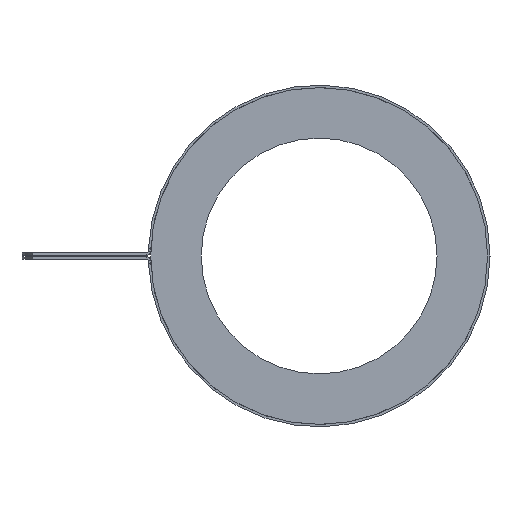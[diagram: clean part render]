
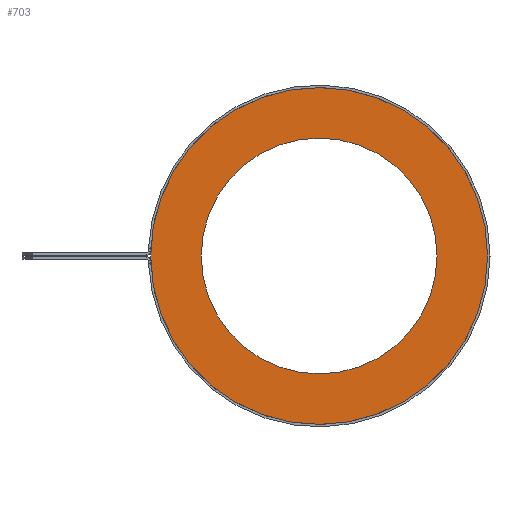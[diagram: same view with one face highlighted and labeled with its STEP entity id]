
A CAD part, left-side view. The second image highlights one B-rep face of the part: STEP entity #703.
In plain terms, the highlighted planar face has unit normal (-1, 0, 0).
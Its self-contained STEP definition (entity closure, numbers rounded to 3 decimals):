
#50 = CARTESIAN_POINT ( 'NONE',  ( -254., 0., 31.75 ) ) ;
#51 = CARTESIAN_POINT ( 'NONE',  ( -254., 0., -31.75 ) ) ;
#52 = CARTESIAN_POINT ( 'NONE',  ( -254., 0., 0. ) ) ;
#53 = DIRECTION ( 'NONE',  ( 1., 0., 0. ) ) ;
#54 = DIRECTION ( 'NONE',  ( 0., 0., -1. ) ) ;
#126 = CIRCLE ( 'NONE', #924, 31.75 ) ;
#187 = FACE_OUTER_BOUND ( 'NONE', #240, .T. ) ;
#190 = FACE_BOUND ( 'NONE', #228, .T. ) ;
#228 = EDGE_LOOP ( 'NONE', ( #513, #521 ) ) ;
#240 = EDGE_LOOP ( 'NONE', ( #547, #495 ) ) ;
#258 = EDGE_CURVE ( 'NONE', #456, #424, #1178, .T. ) ;
#272 = EDGE_CURVE ( 'NONE', #413, #406, #1202, .T. ) ;
#275 = AXIS2_PLACEMENT_3D ( 'NONE', #1098, #1099, #1100 ) ;
#286 = AXIS2_PLACEMENT_3D ( 'NONE', #1031, #1032, #1033 ) ;
#290 = AXIS2_PLACEMENT_3D ( 'NONE', #1369, #1370, #1371 ) ;
#317 = EDGE_CURVE ( 'NONE', #424, #456, #1344, .T. ) ;
#367 = EDGE_CURVE ( 'NONE', #406, #413, #126, .T. ) ;
#406 = VERTEX_POINT ( 'NONE', #51 ) ;
#413 = VERTEX_POINT ( 'NONE', #50 ) ;
#424 = VERTEX_POINT ( 'NONE', #719 ) ;
#456 = VERTEX_POINT ( 'NONE', #720 ) ;
#495 = ORIENTED_EDGE ( 'NONE', *, *, #367, .F. ) ;
#513 = ORIENTED_EDGE ( 'NONE', *, *, #317, .T. ) ;
#521 = ORIENTED_EDGE ( 'NONE', *, *, #258, .T. ) ;
#547 = ORIENTED_EDGE ( 'NONE', *, *, #272, .F. ) ;
#703 = ADVANCED_FACE ( 'NONE', ( #187, #190 ), #1384, .F. ) ;
#719 = CARTESIAN_POINT ( 'NONE',  ( -254., 0., 22.225 ) ) ;
#720 = CARTESIAN_POINT ( 'NONE',  ( -254., 0., -22.225 ) ) ;
#886 = AXIS2_PLACEMENT_3D ( 'NONE', #1386, #1387, #1388 ) ;
#924 = AXIS2_PLACEMENT_3D ( 'NONE', #52, #53, #54 ) ;
#1031 = CARTESIAN_POINT ( 'NONE',  ( -254., 0., 0. ) ) ;
#1032 = DIRECTION ( 'NONE',  ( 1., 0., 0. ) ) ;
#1033 = DIRECTION ( 'NONE',  ( 0., 0., -1. ) ) ;
#1098 = CARTESIAN_POINT ( 'NONE',  ( -254., 0., 0. ) ) ;
#1099 = DIRECTION ( 'NONE',  ( 1., 0., 0. ) ) ;
#1100 = DIRECTION ( 'NONE',  ( 0., 0., -1. ) ) ;
#1178 = CIRCLE ( 'NONE', #290, 22.225 ) ;
#1202 = CIRCLE ( 'NONE', #286, 31.75 ) ;
#1344 = CIRCLE ( 'NONE', #275, 22.225 ) ;
#1369 = CARTESIAN_POINT ( 'NONE',  ( -254., 0., 0. ) ) ;
#1370 = DIRECTION ( 'NONE',  ( 1., 0., 0. ) ) ;
#1371 = DIRECTION ( 'NONE',  ( 0., 0., -1. ) ) ;
#1384 = PLANE ( 'NONE',  #886 ) ;
#1386 = CARTESIAN_POINT ( 'NONE',  ( -254., 0., 0. ) ) ;
#1387 = DIRECTION ( 'NONE',  ( 1., 0., 0. ) ) ;
#1388 = DIRECTION ( 'NONE',  ( 0., 0., -1. ) ) ;
